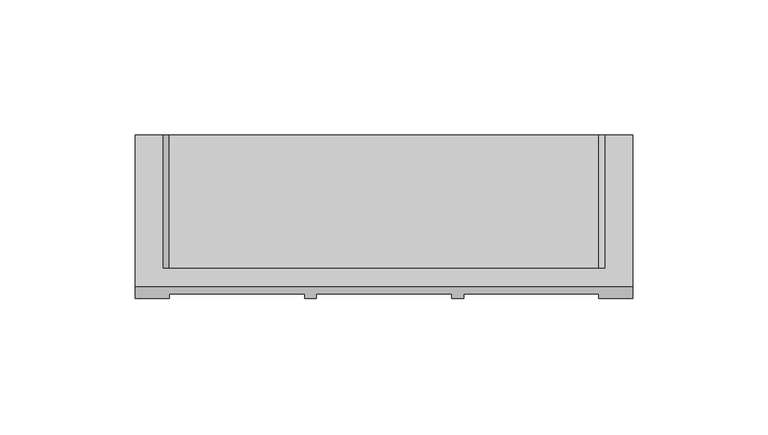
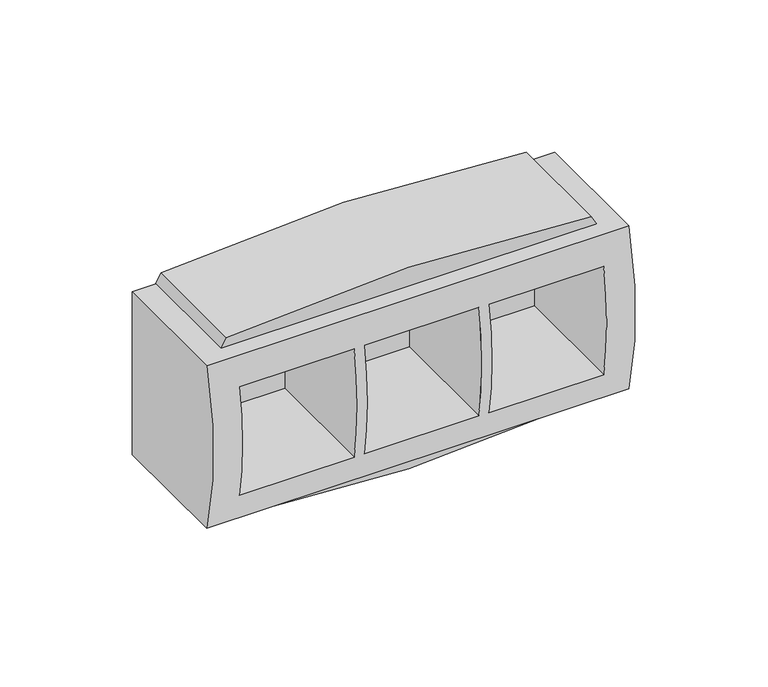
"""IFC4 building model written with IfcOpenShell, lengths in millimetres: proxy geometry, КНС_МодульнаяКоробкаДляЭлектроустановочныхИзделийBrava_ILF_DKC : Модульная коробка для электроустановочных изделий Brava_ILF_DKC."""

from ifc_helpers import new_model, si_unit, point, frame, frame_2d, origin, place, context, project, spatial, polyline, circle_curve, trimmed, segment, composite_curve, outline, extrude, source, transform, mapped, element, save
from ifc_brep_helpers import plane_surface, cylinder_surface, advanced_brep


def electrical_fixtures_ff20663f(model_context):
    return source(origin(), model_context, "Body", "SolidModel", [
        advanced_brep(
        [(92.0, 0.0, -37.5), (92.0, 0.0, 37.5), (92.0, -56.0, 37.5), (92.0, -56.0, -37.5), (-92.0, 0.0, -37.5), (-92.0, -56.0, -37.5), (-92.0, -56.0, 37.5), (-92.0, 0.0, 37.5), (-79.3400812, -58.7996807, -25.0), (-79.3400812, -61.0, 0.0), (-79.3400812, -58.7996807, 25.0), (-29.3400812, -58.7996807, 25.0), (-29.3400812, -61.0, 0.0), (-29.3400812, -58.7996807, -25.0), (-24.9650812, -58.7996807, -25.0), (-24.9650812, -61.0, 0.0), (-24.9650812, -58.7996807, 25.0), (25.0349188, -58.7996807, 25.0), (25.0349188, -61.0, 0.0), (25.0349188, -58.7996807, -25.0), (29.4099188, -58.7996807, -25.0), (29.4099188, -61.0, 0.0), (29.4099188, -58.7996807, 25.0), (79.4099188, -58.7996807, 25.0), (79.4099188, -61.0, 0.0), (79.4099188, -58.7996807, -25.0), (-79.3400812, -6.3084861, 25.0), (-79.3400812, -6.3084861, -25.0), (-29.3400812, -6.3084861, -25.0), (-29.3400812, -6.3084861, 25.0), (-24.9650812, -6.3084861, 25.0), (-24.9650812, -6.3084861, -25.0), (25.0349188, -6.3084861, -25.0), (25.0349188, -6.3084861, 25.0), (29.4099188, -6.3084861, 25.0), (29.4099188, -6.3084861, -25.0), (79.4099188, -6.3084861, -25.0), (79.4099188, -6.3084861, 25.0)],
        [
            (0, 1),
            (1, 2),
            (2, 3, circle_curve(frame((92.0, 82.125, 0.0), z_axis=(1.0, 0.0, 0.0), x_axis=(0.0, 1.0, 0.0)), 143.125)),
            (3, 0),
            (4, 5),
            (5, 6, circle_curve(frame((-92.0, 82.125, 0.0), z_axis=(-1.0, 0.0, 0.0), x_axis=(0.0, 1.0, 0.0)), 143.125)),
            (6, 7),
            (7, 4),
            (0, 4),
            (7, 1),
            (6, 2),
            (5, 3),
            (8, 9, circle_curve(frame((-79.3400812, 82.125, 0.0), z_axis=(-1.0, 0.0, 0.0), x_axis=(0.0, 1.0, 0.0)), 143.125)),
            (9, 10, circle_curve(frame((-79.3400812, 82.125, 0.0), z_axis=(-1.0, 0.0, 0.0), x_axis=(0.0, 1.0, 0.0)), 143.125)),
            (10, 11),
            (11, 12, circle_curve(frame((-29.3400812, 82.125, 0.0), z_axis=(1.0, 0.0, 0.0), x_axis=(0.0, 1.0, 0.0)), 143.125)),
            (12, 13, circle_curve(frame((-29.3400812, 82.125, 0.0), z_axis=(1.0, 0.0, 0.0), x_axis=(0.0, 1.0, 0.0)), 143.125)),
            (13, 8),
            (14, 15, circle_curve(frame((-24.9650812, 82.125, 0.0), z_axis=(-1.0, 0.0, 0.0), x_axis=(0.0, 1.0, 0.0)), 143.125)),
            (15, 16, circle_curve(frame((-24.9650812, 82.125, 0.0), z_axis=(-1.0, 0.0, 0.0), x_axis=(0.0, 1.0, 0.0)), 143.125)),
            (16, 17),
            (17, 18, circle_curve(frame((25.0349188, 82.125, 0.0), z_axis=(1.0, 0.0, 0.0), x_axis=(0.0, 1.0, 0.0)), 143.125)),
            (18, 19, circle_curve(frame((25.0349188, 82.125, 0.0), z_axis=(1.0, 0.0, 0.0), x_axis=(0.0, 1.0, 0.0)), 143.125)),
            (19, 14),
            (20, 21, circle_curve(frame((29.4099188, 82.125, 0.0), z_axis=(-1.0, 0.0, 0.0), x_axis=(0.0, 1.0, 0.0)), 143.125)),
            (21, 22, circle_curve(frame((29.4099188, 82.125, 0.0), z_axis=(-1.0, 0.0, 0.0), x_axis=(0.0, 1.0, 0.0)), 143.125)),
            (22, 23),
            (23, 24, circle_curve(frame((79.4099188, 82.125, 0.0), z_axis=(1.0, 0.0, 0.0), x_axis=(0.0, 1.0, 0.0)), 143.125)),
            (24, 25, circle_curve(frame((79.4099188, 82.125, 0.0), z_axis=(1.0, 0.0, 0.0), x_axis=(0.0, 1.0, 0.0)), 143.125)),
            (25, 20),
            (26, 27),
            (27, 28),
            (28, 29),
            (29, 26),
            (30, 31),
            (31, 32),
            (32, 33),
            (33, 30),
            (34, 35),
            (35, 36),
            (36, 37),
            (37, 34),
            (26, 10),
            (8, 27),
            (13, 28),
            (11, 29),
            (30, 16),
            (14, 31),
            (19, 32),
            (17, 33),
            (34, 22),
            (20, 35),
            (25, 36),
            (23, 37),
        ],
        [
            plane_surface(frame((92.0, 0.0, 37.5), z_axis=(1.0, 0.0, 0.0), x_axis=(0.0, 0.0, 1.0))),
            plane_surface(frame((-92.0, 0.0, 37.5), z_axis=(-1.0, 0.0, 0.0), x_axis=(0.0, 0.0, -1.0))),
            plane_surface(frame((92.0, 0.0, -37.5), z_axis=(0.0, 1.0, 0.0), x_axis=(-1.0, 0.0, 0.0))),
            plane_surface(frame((92.0, 0.0, 37.5), z_axis=(0.0, 0.0, 1.0), x_axis=(-1.0, 0.0, 0.0))),
            cylinder_surface(frame((-92.0, 82.125, 0.0), z_axis=(1.0, 0.0, 0.0), x_axis=(0.0, 1.0, 0.0)), 143.125),
            plane_surface(frame((92.0, -56.0, -37.5), z_axis=(0.0, 0.0, -1.0), x_axis=(-1.0, 0.0, 0.0))),
            plane_surface(frame((-79.3400812, -6.3084861, 25.0), z_axis=(0.0, -1.0, 0.0), x_axis=(0.0, 0.0, 1.0))),
            plane_surface(frame((-79.3400812, -61.0, 25.0), z_axis=(1.0, 0.0, 0.0), x_axis=(0.0, 1.0, 0.0))),
            plane_surface(frame((-79.3400812, -61.0, -25.0), z_axis=(0.0, 0.0, 1.0), x_axis=(0.0, 1.0, 0.0))),
            plane_surface(frame((-29.3400812, -61.0, -25.0), z_axis=(-1.0, 0.0, 0.0), x_axis=(0.0, 1.0, 0.0))),
            plane_surface(frame((-29.3400812, -61.0, 25.0), z_axis=(0.0, 0.0, -1.0), x_axis=(0.0, 1.0, 0.0))),
            plane_surface(frame((-24.9650812, -61.0, 25.0), z_axis=(1.0, 0.0, 0.0), x_axis=(0.0, 1.0, 0.0))),
            plane_surface(frame((-24.9650812, -61.0, -25.0), z_axis=(0.0, 0.0, 1.0), x_axis=(0.0, 1.0, 0.0))),
            plane_surface(frame((25.0349188, -61.0, -25.0), z_axis=(-1.0, 0.0, 0.0), x_axis=(0.0, 1.0, 0.0))),
            plane_surface(frame((25.0349188, -61.0, 25.0), z_axis=(0.0, 0.0, -1.0), x_axis=(0.0, 1.0, 0.0))),
            plane_surface(frame((29.4099188, -61.0, 25.0), z_axis=(1.0, 0.0, 0.0), x_axis=(0.0, 1.0, 0.0))),
            plane_surface(frame((29.4099188, -61.0, -25.0), z_axis=(0.0, 0.0, 1.0), x_axis=(0.0, 1.0, 0.0))),
            plane_surface(frame((79.4099188, -61.0, -25.0), z_axis=(-1.0, 0.0, 0.0), x_axis=(0.0, 1.0, 0.0))),
            plane_surface(frame((79.4099188, -61.0, 25.0), z_axis=(0.0, 0.0, -1.0), x_axis=(0.0, 1.0, 0.0))),
        ],
        [
            (0, [[1, 2, 3, 4]]),
            (1, [[5, 6, 7, 8]]),
            (2, [[-1, 9, -8, 10]]),
            (3, [[-2, -10, -7, 11]]),
            (4, [[-3, -11, -6, 12], [13, 14, 15, 16, 17, 18], [19, 20, 21, 22, 23, 24], [25, 26, 27, 28, 29, 30]]),
            (5, [[-4, -12, -5, -9]]),
            (6, [[31, 32, 33, 34]]),
            (6, [[35, 36, 37, 38]]),
            (6, [[39, 40, 41, 42]]),
            (7, [[-31, 43, -14, -13, 44]]),
            (8, [[-32, -44, -18, 45]]),
            (9, [[-33, -45, -17, -16, 46]]),
            (10, [[-34, -46, -15, -43]]),
            (11, [[-35, 47, -20, -19, 48]]),
            (12, [[-36, -48, -24, 49]]),
            (13, [[-37, -49, -23, -22, 50]]),
            (14, [[-38, -50, -21, -47]]),
            (15, [[-39, 51, -26, -25, 52]]),
            (16, [[-40, -52, -30, 53]]),
            (17, [[-41, -53, -29, -28, 54]]),
            (18, [[-42, -54, -27, -51]]),
        ],
    ),
        extrude(outline(composite_curve([segment(polyline([(37.5, 82.0), (41.830127, 79.5)]), True, "CONTINUOUS"), segment(trimmed(circle_curve(frame_2d((-632.5396376, 0.0)), 679.0396376), [point((41.830127, 79.5))], [point((41.830127, -79.5))], False, "CARTESIAN"), True, "CONTINUOUS"), segment(polyline([(41.830127, -79.5), (37.5, -82.0), (37.5, 82.0)]), True, "CONTINUOUS")], self_intersect=False)), frame((0.0, -49.182494, 0.0), z_axis=(0.0, 1.0, 0.0), x_axis=(0.0, 0.0, 1.0)), (0.0, 0.0, 1.0), 49.182494),
        extrude(outline(composite_curve([segment(polyline([(-37.5, 82.0), (-37.5, -82.0), (-41.830127, -79.5)]), True, "CONTINUOUS"), segment(trimmed(circle_curve(frame_2d((632.5396376, 0.0)), 679.0396376), [point((-41.830127, -79.5))], [point((-41.830127, 79.5))], False, "CARTESIAN"), True, "CONTINUOUS"), segment(polyline([(-41.830127, 79.5), (-37.5, 82.0)]), True, "CONTINUOUS")], self_intersect=False)), frame((0.0, -49.182494, 0.0), z_axis=(0.0, 1.0, 0.0), x_axis=(0.0, 0.0, 1.0)), (0.0, 0.0, 1.0), 49.182494),
    ])


if __name__ == "__main__":
    model = new_model("IFC4")
    model_context = context("Model", 3, world=origin())
    ifc_project = project(units=[si_unit("LENGTHUNIT", "METRE", prefix="MILLI")], contexts=[model_context])
    site = spatial("IfcSite", under=ifc_project)
    building = spatial("IfcBuilding", under=site)
    placement = place(None, origin())
    electrical_fixtures_shape = electrical_fixtures_ff20663f(model_context)
    element("IfcBuildingElementProxy", 1, Name="КНС_МодульнаяКоробкаДляЭлектроустановочныхИзделийBrava_ILF_DKC : Модульная коробка для электроустановочных изделий Brava_ILF_DKC", ObjectType="КНС_МодульнаяКоробкаДляЭлектроустановочныхИзделийBrava_ILF_DKC : Модульная коробка для электроустановочных изделий Brava_ILF_DKC", at=placement, inside=building, context=model_context, shape_type="MappedRepresentation", body=[
        mapped(electrical_fixtures_shape, transform((0.0, 0.0, 0.0), x_axis=(1.0, 0.0, 0.0), y_axis=(0.0, 1.0, 0.0), z_axis=(0.0, 0.0, 1.0))),
    ])
    save(model, "model.ifc")
